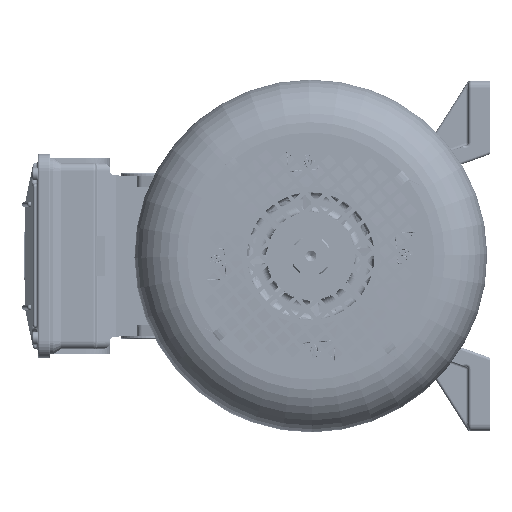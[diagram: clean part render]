
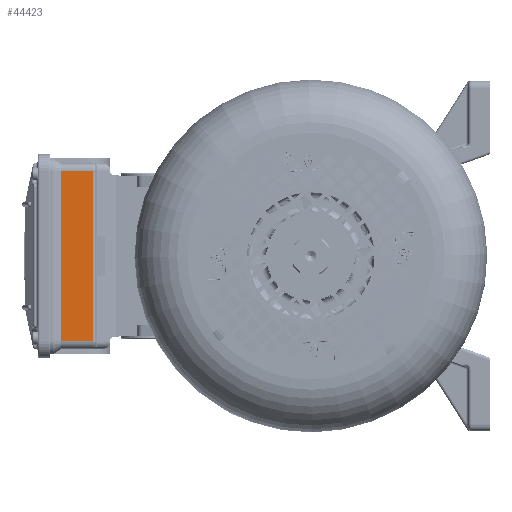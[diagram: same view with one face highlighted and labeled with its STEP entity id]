
A CAD part, left-side view. The second image highlights one B-rep face of the part: STEP entity #44423.
In plain terms, the highlighted planar face has unit normal (-1, 0, 0) as drawn and (1, 0, 0) by its records, which use the part's own axes.
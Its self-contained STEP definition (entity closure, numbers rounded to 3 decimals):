
#261 = CARTESIAN_POINT ( 'NONE',  ( 92.5, -11.7, 62.5 ) ) ;
#1961 = VECTOR ( 'NONE', #167806, 1000. ) ;
#8155 = DIRECTION ( 'NONE',  ( 0., 0., 1. ) ) ;
#14290 = VERTEX_POINT ( 'NONE', #165507 ) ;
#15618 = ORIENTED_EDGE ( 'NONE', *, *, #122419, .F. ) ;
#19041 = CARTESIAN_POINT ( 'NONE',  ( 92.5, -11.7, -62.5 ) ) ;
#19056 = LINE ( 'NONE', #39596, #134529 ) ;
#28992 = ORIENTED_EDGE ( 'NONE', *, *, #160263, .T. ) ;
#37856 = PLANE ( 'NONE',  #192743 ) ;
#39596 = CARTESIAN_POINT ( 'NONE',  ( 92.5, -282.704, -62.5 ) ) ;
#42576 = ORIENTED_EDGE ( 'NONE', *, *, #59233, .T. ) ;
#42664 = ORIENTED_EDGE ( 'NONE', *, *, #118072, .T. ) ;
#44423 = ADVANCED_FACE ( 'NONE', ( #118826 ), #37856, .F. ) ;
#53009 = CARTESIAN_POINT ( 'NONE',  ( 92.5, -282.704, -62.5 ) ) ;
#59233 = EDGE_CURVE ( 'NONE', #156907, #135547, #19056, .T. ) ;
#59495 = CARTESIAN_POINT ( 'NONE',  ( 92.5, -11.7, -62.5 ) ) ;
#62417 = CARTESIAN_POINT ( 'NONE',  ( 92.5, -282.704, 62.5 ) ) ;
#84981 = DIRECTION ( 'NONE',  ( 0., 1., 0. ) ) ;
#89331 = LINE ( 'NONE', #155488, #120055 ) ;
#95509 = DIRECTION ( 'NONE',  ( 0., 0., -1. ) ) ;
#98389 = DIRECTION ( 'NONE',  ( -1., 0., 0. ) ) ;
#98579 = VECTOR ( 'NONE', #195175, 1000. ) ;
#118072 = EDGE_CURVE ( 'NONE', #14290, #156907, #89331, .T. ) ;
#118826 = FACE_OUTER_BOUND ( 'NONE', #169646, .T. ) ;
#120055 = VECTOR ( 'NONE', #95509, 1000. ) ;
#122419 = EDGE_CURVE ( 'NONE', #14290, #179419, #166985, .T. ) ;
#134529 = VECTOR ( 'NONE', #84981, 1000. ) ;
#135547 = VERTEX_POINT ( 'NONE', #19041 ) ;
#141572 = CARTESIAN_POINT ( 'NONE',  ( 92.5, -35.5, -62.5 ) ) ;
#155488 = CARTESIAN_POINT ( 'NONE',  ( 92.5, -35.5, -62.5 ) ) ;
#156907 = VERTEX_POINT ( 'NONE', #141572 ) ;
#160263 = EDGE_CURVE ( 'NONE', #135547, #179419, #178734, .T. ) ;
#165507 = CARTESIAN_POINT ( 'NONE',  ( 92.5, -35.5, 62.5 ) ) ;
#166985 = LINE ( 'NONE', #62417, #1961 ) ;
#167806 = DIRECTION ( 'NONE',  ( 0., 1., 0. ) ) ;
#169646 = EDGE_LOOP ( 'NONE', ( #15618, #42664, #42576, #28992 ) ) ;
#178734 = LINE ( 'NONE', #59495, #98579 ) ;
#179419 = VERTEX_POINT ( 'NONE', #261 ) ;
#192743 = AXIS2_PLACEMENT_3D ( 'NONE', #53009, #98389, #8155 ) ;
#195175 = DIRECTION ( 'NONE',  ( 0., 0., 1. ) ) ;
